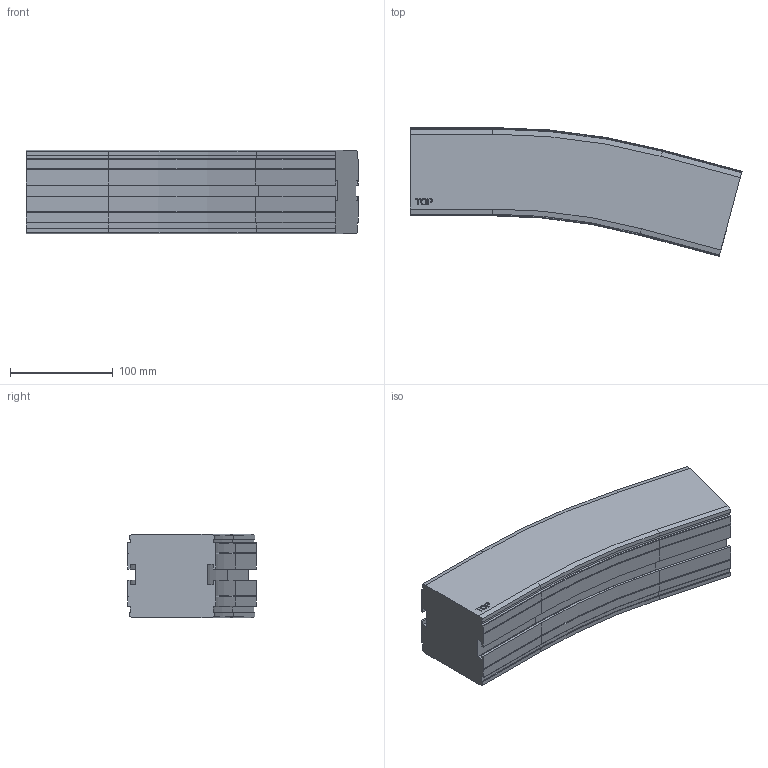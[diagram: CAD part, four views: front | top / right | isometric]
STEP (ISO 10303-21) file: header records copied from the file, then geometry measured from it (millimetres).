
FILE_DESCRIPTION((''),'2;1');
FILE_NAME('C:\Vault Klient\Projekt\Koncept konstruktion\Serie 830 Balk\830-5330.stp','2009-11-27T10:23:34',('Mathias'),(''),'Autodesk Inventor 2010','Autodesk Inventor 2010','');
FILE_SCHEMA(('AUTOMOTIVE_DESIGN { 1 0 10303 214 1 1 1 1 }'));
Length unit declared in the file: millimetre
Products named in the file (1): 830-5330
Bounding box: 323.69 x 125.68 x 81.5 mm (x, y, z)
Volume: 2107589.1 mm3; surface area: 142859.3 mm2
Topology: 1 solids, 1 shells, 169 faces, 446 edges, 284 vertices
Faces by surface type: plane 109, cylinder 30, bspline 14, cone 12, torus 4
Entity records: 5295 total; most frequent: CARTESIAN_POINT 1094, ORIENTED_EDGE 892, DIRECTION 802, EDGE_CURVE 446, VECTOR 346, LINE 346, VERTEX_POINT 284, AXIS2_PLACEMENT_3D 228
